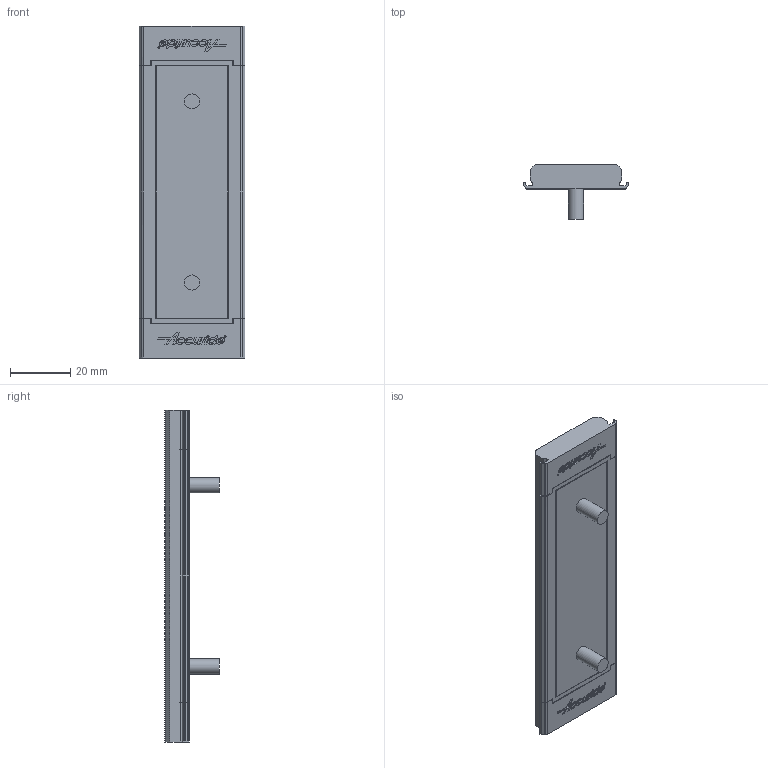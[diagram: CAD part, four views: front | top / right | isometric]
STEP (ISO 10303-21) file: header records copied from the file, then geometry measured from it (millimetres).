
FILE_DESCRIPTION((''),'2;1');
FILE_NAME('D:\01 WORK\DIST\02172A-Drawings for website\0115RC\STEP\DP0115-CASSRC.stp','2011-11-08T14:31:19',('jtaylor'),(''),'Autodesk Inventor 2012','Autodesk Inventor 2012','');
FILE_SCHEMA(('AUTOMOTIVE_DESIGN { 1 0 10303 214 1 1 1 1 }'));
Length unit declared in the file: millimetre
Products named in the file (1): DP0115-CASSRC
Bounding box: 35.11 x 18.02 x 110 mm (x, y, z)
Volume: 26981.5 mm3; surface area: 12316.6 mm2
Topology: 1 solids, 1 shells, 560 faces, 1570 edges, 1048 vertices
Faces by surface type: bspline 272, plane 242, cylinder 46
Full cylindrical faces by diameter (mm): 5 x2
Entity records: 18723 total; most frequent: CARTESIAN_POINT 6027, ORIENTED_EDGE 3136, DIRECTION 1696, EDGE_CURVE 1568, VERTEX_POINT 1048, VECTOR 934, LINE 934, EDGE_LOOP 598
